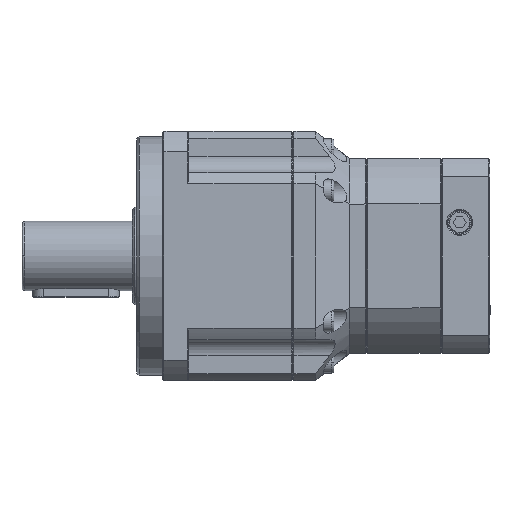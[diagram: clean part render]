
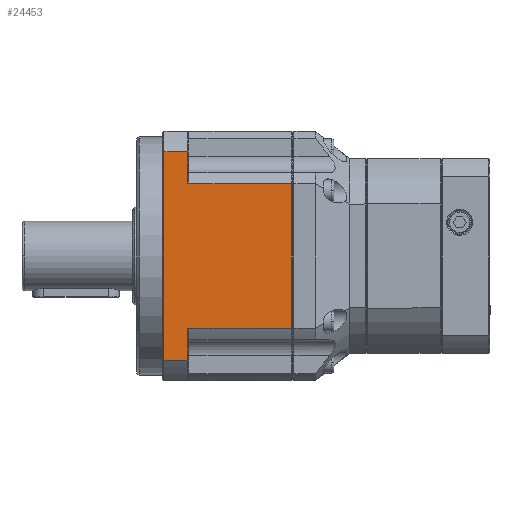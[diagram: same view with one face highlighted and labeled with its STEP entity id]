
A CAD part, left-side view. The second image highlights one B-rep face of the part: STEP entity #24453.
In plain terms, the highlighted planar face has unit normal (1, 0, 0).
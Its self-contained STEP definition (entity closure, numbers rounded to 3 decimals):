
#3263 = CARTESIAN_POINT ( 'NONE',  ( -57.5, 24.889, -48.153 ) ) ;
#5037 = DIRECTION ( 'NONE',  ( 0., 1., 0. ) ) ;
#5373 = DIRECTION ( 'NONE',  ( 0., 0., -1. ) ) ;
#5498 = VERTEX_POINT ( 'NONE', #40064 ) ;
#5704 = CARTESIAN_POINT ( 'NONE',  ( -57.5, 24.889, 0. ) ) ;
#8743 = EDGE_CURVE ( 'NONE', #9765, #42901, #12091, .T. ) ;
#9695 = VECTOR ( 'NONE', #65978, 1000. ) ;
#9765 = VERTEX_POINT ( 'NONE', #48623 ) ;
#10413 = VERTEX_POINT ( 'NONE', #98501 ) ;
#11039 = CARTESIAN_POINT ( 'NONE',  ( -57.5, 13.889, 48.153 ) ) ;
#12091 = LINE ( 'NONE', #58251, #9695 ) ;
#14107 = ORIENTED_EDGE ( 'NONE', *, *, #70510, .F. ) ;
#17975 = AXIS2_PLACEMENT_3D ( 'NONE', #91284, #98976, #52992 ) ;
#18232 = EDGE_CURVE ( 'NONE', #9765, #24069, #60050, .T. ) ;
#18965 = ORIENTED_EDGE ( 'NONE', *, *, #8743, .F. ) ;
#21710 = CARTESIAN_POINT ( 'NONE',  ( -57.5, -34.111, 33.407 ) ) ;
#24021 = CARTESIAN_POINT ( 'NONE',  ( -57.5, -4.611, -33.407 ) ) ;
#24069 = VERTEX_POINT ( 'NONE', #3263 ) ;
#24373 = LINE ( 'NONE', #35452, #44801 ) ;
#24453 = ADVANCED_FACE ( 'NONE', ( #68122 ), #45235, .T. ) ;
#27934 = VERTEX_POINT ( 'NONE', #44217 ) ;
#30018 = ORIENTED_EDGE ( 'NONE', *, *, #61949, .F. ) ;
#31747 = DIRECTION ( 'NONE',  ( 0., -1., 0. ) ) ;
#35452 = CARTESIAN_POINT ( 'NONE',  ( -57.5, -4.611, 48.153 ) ) ;
#36399 = VECTOR ( 'NONE', #5373, 1000. ) ;
#37094 = DIRECTION ( 'NONE',  ( 0., 0., 1. ) ) ;
#38629 = ORIENTED_EDGE ( 'NONE', *, *, #68267, .F. ) ;
#40064 = CARTESIAN_POINT ( 'NONE',  ( -57.5, 24.889, 48.153 ) ) ;
#40448 = LINE ( 'NONE', #24021, #78890 ) ;
#40524 = ORIENTED_EDGE ( 'NONE', *, *, #88316, .F. ) ;
#42901 = VERTEX_POINT ( 'NONE', #92666 ) ;
#44217 = CARTESIAN_POINT ( 'NONE',  ( -57.5, 13.889, 33.407 ) ) ;
#44801 = VECTOR ( 'NONE', #89220, 1000. ) ;
#45235 = PLANE ( 'NONE',  #17975 ) ;
#48623 = CARTESIAN_POINT ( 'NONE',  ( -57.5, 13.889, -48.153 ) ) ;
#50400 = VECTOR ( 'NONE', #71876, 1000. ) ;
#52992 = DIRECTION ( 'NONE',  ( 0., 0., -1. ) ) ;
#53181 = VECTOR ( 'NONE', #37094, 1000. ) ;
#56443 = ORIENTED_EDGE ( 'NONE', *, *, #74186, .F. ) ;
#57635 = VECTOR ( 'NONE', #72360, 1000. ) ;
#58251 = CARTESIAN_POINT ( 'NONE',  ( -57.5, 13.889, 0. ) ) ;
#60050 = LINE ( 'NONE', #64592, #57635 ) ;
#61949 = EDGE_CURVE ( 'NONE', #42901, #10413, #40448, .T. ) ;
#63124 = VERTEX_POINT ( 'NONE', #11039 ) ;
#64104 = CARTESIAN_POINT ( 'NONE',  ( -57.5, 13.889, 0. ) ) ;
#64292 = EDGE_CURVE ( 'NONE', #10413, #72433, #76058, .T. ) ;
#64592 = CARTESIAN_POINT ( 'NONE',  ( -57.5, 19.389, -48.153 ) ) ;
#65978 = DIRECTION ( 'NONE',  ( 0., 0., 1. ) ) ;
#68122 = FACE_OUTER_BOUND ( 'NONE', #80317, .T. ) ;
#68267 = EDGE_CURVE ( 'NONE', #5498, #24069, #97657, .T. ) ;
#68431 = LINE ( 'NONE', #97082, #86374 ) ;
#68456 = LINE ( 'NONE', #64104, #50400 ) ;
#69950 = ORIENTED_EDGE ( 'NONE', *, *, #64292, .F. ) ;
#70510 = EDGE_CURVE ( 'NONE', #72433, #27934, #68431, .T. ) ;
#71876 = DIRECTION ( 'NONE',  ( 0., 0., 1. ) ) ;
#72360 = DIRECTION ( 'NONE',  ( 0., 1., 0. ) ) ;
#72433 = VERTEX_POINT ( 'NONE', #21710 ) ;
#74186 = EDGE_CURVE ( 'NONE', #63124, #5498, #24373, .T. ) ;
#76058 = LINE ( 'NONE', #83100, #53181 ) ;
#78890 = VECTOR ( 'NONE', #31747, 1000. ) ;
#80317 = EDGE_LOOP ( 'NONE', ( #40524, #14107, #69950, #30018, #18965, #98270, #38629, #56443 ) ) ;
#83100 = CARTESIAN_POINT ( 'NONE',  ( -57.5, -34.111, 0. ) ) ;
#86374 = VECTOR ( 'NONE', #5037, 1000. ) ;
#88316 = EDGE_CURVE ( 'NONE', #27934, #63124, #68456, .T. ) ;
#89220 = DIRECTION ( 'NONE',  ( 0., 1., 0. ) ) ;
#91284 = CARTESIAN_POINT ( 'NONE',  ( -57.5, -34.111, 48.153 ) ) ;
#92666 = CARTESIAN_POINT ( 'NONE',  ( -57.5, 13.889, -33.407 ) ) ;
#97082 = CARTESIAN_POINT ( 'NONE',  ( -57.5, -4.611, 33.407 ) ) ;
#97657 = LINE ( 'NONE', #5704, #36399 ) ;
#98270 = ORIENTED_EDGE ( 'NONE', *, *, #18232, .T. ) ;
#98501 = CARTESIAN_POINT ( 'NONE',  ( -57.5, -34.111, -33.407 ) ) ;
#98976 = DIRECTION ( 'NONE',  ( 1., 0., 0. ) ) ;
